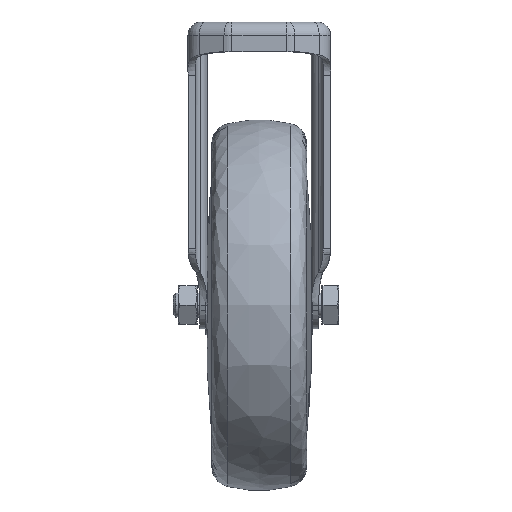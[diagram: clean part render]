
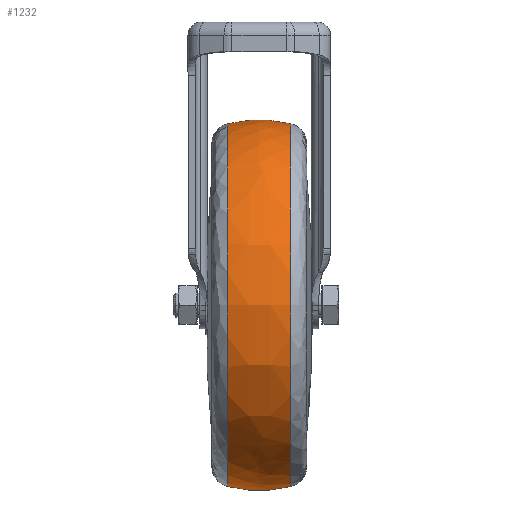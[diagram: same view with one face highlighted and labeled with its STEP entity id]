
A CAD part, top view. The second image highlights one B-rep face of the part: STEP entity #1232.
In plain terms, the highlighted free-form (B-spline) face has degree [3, 3] with [4, 4] control points.
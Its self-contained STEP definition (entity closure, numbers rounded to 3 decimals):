
#1232 = ADVANCED_FACE ( 'NONE', ( #25873 ), #17331, .T. ) ;
#1367 = VERTEX_POINT ( 'NONE', #30962 ) ;
#2132 = DIRECTION ( 'NONE',  ( -1., 0., 0. ) ) ;
#2440 = DIRECTION ( 'NONE',  ( 1., 0., 0. ) ) ;
#2556 = CARTESIAN_POINT ( 'NONE',  ( -10.658, -156.72, 122.439 ) ) ;
#2886 = CARTESIAN_POINT ( 'NONE',  ( 10.658, -34.28, 0. ) ) ;
#3233 = CARTESIAN_POINT ( 'NONE',  ( 10.658, -156.72, 122.439 ) ) ;
#3875 = VERTEX_POINT ( 'NONE', #2886 ) ;
#7094 = CIRCLE ( 'NONE', #18692, 61.22 ) ;
#8870 = CARTESIAN_POINT ( 'NONE',  ( 0., -78., 0. ) ) ;
#9444 = EDGE_CURVE ( 'NONE', #30063, #3875, #39731, .T. ) ;
#10163 = CARTESIAN_POINT ( 'NONE',  ( -3.621, -158.435, 125.87 ) ) ;
#10668 = CARTESIAN_POINT ( 'NONE',  ( 10.658, -156.72, 0. ) ) ;
#12665 = DIRECTION ( 'NONE',  ( 0., 1., 0. ) ) ;
#13081 = ORIENTED_EDGE ( 'NONE', *, *, #21924, .T. ) ;
#14261 = CIRCLE ( 'NONE', #34611, 45. ) ;
#15486 = CARTESIAN_POINT ( 'NONE',  ( 0., -113., 0. ) ) ;
#17032 = ORIENTED_EDGE ( 'NONE', *, *, #41004, .T. ) ;
#17331 =( BOUNDED_SURFACE ( )  B_SPLINE_SURFACE ( 3, 3, ( 
 ( #36215, #2556, #25689, #43781 ),
 ( #17844, #10163, #17681, #43942 ),
 ( #25018, #29303, #47553, #40186 ),
 ( #10668, #3233, #25512, #20428 ) ),
 .UNSPECIFIED., .F., .F., .F. ) 
 B_SPLINE_SURFACE_WITH_KNOTS ( ( 4, 4 ),
 ( 4, 4 ),
 ( 0., 1. ),
 ( 0., 1. ),
 .UNSPECIFIED. ) 
 GEOMETRIC_REPRESENTATION_ITEM ( )  RATIONAL_B_SPLINE_SURFACE ( (
 ( 1., 0.333, 0.333, 1.),
 ( 0.981, 0.327, 0.327, 0.981),
 ( 0.981, 0.327, 0.327, 0.981),
 ( 1., 0.333, 0.333, 1.) ) ) 
 REPRESENTATION_ITEM ( '' )  SURFACE ( )  );
#17681 = CARTESIAN_POINT ( 'NONE',  ( -3.621, -32.565, 125.87 ) ) ;
#17844 = CARTESIAN_POINT ( 'NONE',  ( -3.621, -158.435, 0. ) ) ;
#18400 = CARTESIAN_POINT ( 'NONE',  ( -10.658, -34.28, 0. ) ) ;
#18692 = AXIS2_PLACEMENT_3D ( 'NONE', #24887, #2440, #28698 ) ;
#19036 = CIRCLE ( 'NONE', #29170, 61.22 ) ;
#19265 = DIRECTION ( 'NONE',  ( 0., -1., 0. ) ) ;
#19575 = EDGE_LOOP ( 'NONE', ( #33094, #13081, #17032, #31898 ) ) ;
#20428 = CARTESIAN_POINT ( 'NONE',  ( 10.658, -34.28, 0. ) ) ;
#21413 = VERTEX_POINT ( 'NONE', #35461 ) ;
#21924 = EDGE_CURVE ( 'NONE', #30063, #1367, #7094, .T. ) ;
#22912 = AXIS2_PLACEMENT_3D ( 'NONE', #8870, #35053, #12665 ) ;
#24583 = CARTESIAN_POINT ( 'NONE',  ( 10.658, -95.5, 0. ) ) ;
#24887 = CARTESIAN_POINT ( 'NONE',  ( -10.658, -95.5, 0. ) ) ;
#25018 = CARTESIAN_POINT ( 'NONE',  ( 3.621, -158.435, 0. ) ) ;
#25512 = CARTESIAN_POINT ( 'NONE',  ( 10.658, -34.28, 122.439 ) ) ;
#25689 = CARTESIAN_POINT ( 'NONE',  ( -10.658, -34.28, 122.439 ) ) ;
#25873 = FACE_OUTER_BOUND ( 'NONE', #19575, .T. ) ;
#27350 = EDGE_CURVE ( 'NONE', #21413, #3875, #19036, .T. ) ;
#28392 = DIRECTION ( 'NONE',  ( 0., -1., 0. ) ) ;
#28698 = DIRECTION ( 'NONE',  ( 0., -1., 0. ) ) ;
#29170 = AXIS2_PLACEMENT_3D ( 'NONE', #24583, #2132, #28392 ) ;
#29303 = CARTESIAN_POINT ( 'NONE',  ( 3.621, -158.435, 125.87 ) ) ;
#30063 = VERTEX_POINT ( 'NONE', #18400 ) ;
#30962 = CARTESIAN_POINT ( 'NONE',  ( -10.658, -156.72, 0. ) ) ;
#31898 = ORIENTED_EDGE ( 'NONE', *, *, #27350, .T. ) ;
#33094 = ORIENTED_EDGE ( 'NONE', *, *, #9444, .F. ) ;
#34611 = AXIS2_PLACEMENT_3D ( 'NONE', #15486, #41771, #19265 ) ;
#35053 = DIRECTION ( 'NONE',  ( 0., 0., -1. ) ) ;
#35461 = CARTESIAN_POINT ( 'NONE',  ( 10.658, -156.72, 0. ) ) ;
#36215 = CARTESIAN_POINT ( 'NONE',  ( -10.658, -156.72, 0. ) ) ;
#39731 = CIRCLE ( 'NONE', #22912, 45. ) ;
#40186 = CARTESIAN_POINT ( 'NONE',  ( 3.621, -32.565, 0. ) ) ;
#41004 = EDGE_CURVE ( 'NONE', #1367, #21413, #14261, .T. ) ;
#41771 = DIRECTION ( 'NONE',  ( 0., 0., 1. ) ) ;
#43781 = CARTESIAN_POINT ( 'NONE',  ( -10.658, -34.28, 0. ) ) ;
#43942 = CARTESIAN_POINT ( 'NONE',  ( -3.621, -32.565, 0. ) ) ;
#47553 = CARTESIAN_POINT ( 'NONE',  ( 3.621, -32.565, 125.87 ) ) ;
